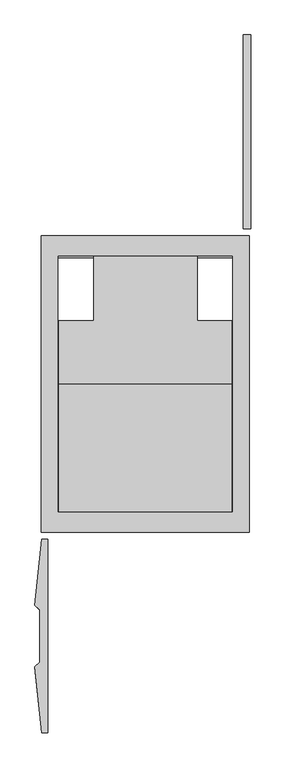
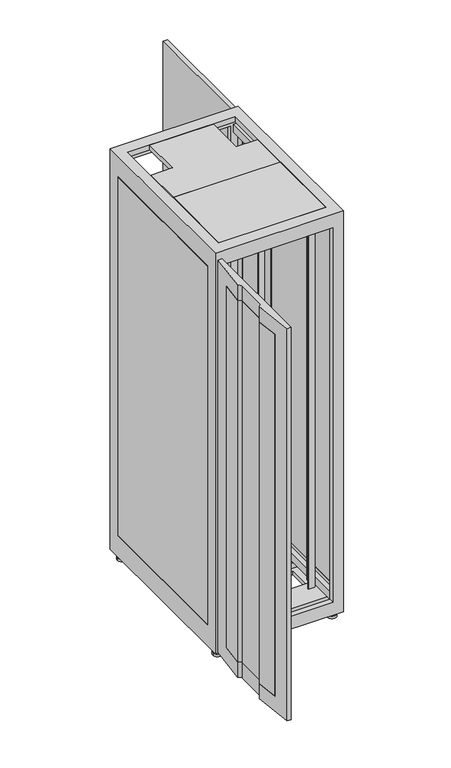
"""IFC4 building model written with IfcOpenShell, lengths in millimetres: electric appliance geometry."""

from ifc_helpers import new_model, si_unit, frame, origin, place, context, project, spatial, polyline, circle_curve, outline, extrude, faceted_brep, source, transform, mapped, element, save
from ifc_brep_helpers import plane_surface, cylinder_surface, advanced_brep


def electric_appliance_624bd925(model_context):
    return source(origin(), model_context, "Body", "SolidModel", [
        advanced_brep(
        [(-292.227, -391.795, 12.7), (-250.063, -391.795, 12.7), (-260.985, -391.795, 12.7), (-281.305, -391.795, 12.7), (-292.227, -391.795, 0.0), (-250.063, -391.795, 0.0), (-281.305, -391.795, 34.2138), (-260.985, -391.795, 34.2138)],
        [
            (0, 1, circle_curve(frame((-271.145, -391.795, 12.7), z_axis=(0.0, 0.0, 1.0), x_axis=(1.0, 0.0, 0.0)), 21.082)),
            (1, 0, circle_curve(frame((-271.145, -391.795, 12.7), z_axis=(0.0, 0.0, 1.0), x_axis=(1.0, 0.0, 0.0)), 21.082)),
            (2, 3, circle_curve(frame((-271.145, -391.795, 12.7), z_axis=(0.0, 0.0, -1.0), x_axis=(1.0, 0.0, 0.0)), 10.16)),
            (3, 2, circle_curve(frame((-271.145, -391.795, 12.7), z_axis=(0.0, 0.0, -1.0), x_axis=(1.0, 0.0, 0.0)), 10.16)),
            (4, 5, circle_curve(frame((-271.145, -391.795, 0.0), z_axis=(0.0, 0.0, -1.0), x_axis=(1.0, 0.0, 0.0)), 21.082)),
            (5, 4, circle_curve(frame((-271.145, -391.795, 0.0), z_axis=(0.0, 0.0, -1.0), x_axis=(1.0, 0.0, 0.0)), 21.082)),
            (0, 4),
            (5, 1),
            (6, 7, circle_curve(frame((-271.145, -391.795, 34.2138), z_axis=(0.0, 0.0, 1.0), x_axis=(1.0, 0.0, 0.0)), 10.16)),
            (7, 6, circle_curve(frame((-271.145, -391.795, 34.2138), z_axis=(0.0, 0.0, 1.0), x_axis=(1.0, 0.0, 0.0)), 10.16)),
            (6, 3),
            (2, 7),
        ],
        [
            plane_surface(frame((-250.063, -391.795, 12.7), z_axis=(0.0, 0.0, 1.0), x_axis=(0.0, 1.0, 0.0))),
            plane_surface(frame((-250.063, -391.795, 0.0), z_axis=(0.0, 0.0, -1.0), x_axis=(0.0, -1.0, 0.0))),
            cylinder_surface(frame((-271.145, -391.795, 0.0), z_axis=(0.0, 0.0, 1.0), x_axis=(1.0, 0.0, 0.0)), 21.082),
            plane_surface(frame((-260.985, -391.795, 34.2138), z_axis=(0.0, 0.0, 1.0), x_axis=(0.0, 1.0, 0.0))),
            cylinder_surface(frame((-271.145, -391.795, 12.7), z_axis=(0.0, 0.0, 1.0), x_axis=(1.0, 0.0, 0.0)), 10.16),
        ],
        [
            (0, [[1, 2], [3, 4]]),
            (1, [[5, 6]]),
            (2, [[-1, 7, -6, 8]]),
            (2, [[-2, -8, -5, -7]]),
            (3, [[9, 10]]),
            (4, [[-9, 11, -3, 12]]),
            (4, [[-10, -12, -4, -11]]),
        ],
    ),
        advanced_brep(
        [(250.063, -391.795, 12.7), (292.227, -391.795, 12.7), (281.305, -391.795, 12.7), (260.985, -391.795, 12.7), (250.063, -391.795, 0.0), (292.227, -391.795, 0.0), (260.985, -391.795, 34.2138), (281.305, -391.795, 34.2138)],
        [
            (0, 1, circle_curve(frame((271.145, -391.795, 12.7), z_axis=(0.0, 0.0, 1.0), x_axis=(1.0, 0.0, 0.0)), 21.082)),
            (1, 0, circle_curve(frame((271.145, -391.795, 12.7), z_axis=(0.0, 0.0, 1.0), x_axis=(1.0, 0.0, 0.0)), 21.082)),
            (2, 3, circle_curve(frame((271.145, -391.795, 12.7), z_axis=(0.0, 0.0, -1.0), x_axis=(1.0, 0.0, 0.0)), 10.16)),
            (3, 2, circle_curve(frame((271.145, -391.795, 12.7), z_axis=(0.0, 0.0, -1.0), x_axis=(1.0, 0.0, 0.0)), 10.16)),
            (4, 5, circle_curve(frame((271.145, -391.795, 0.0), z_axis=(0.0, 0.0, -1.0), x_axis=(1.0, 0.0, 0.0)), 21.082)),
            (5, 4, circle_curve(frame((271.145, -391.795, 0.0), z_axis=(0.0, 0.0, -1.0), x_axis=(1.0, 0.0, 0.0)), 21.082)),
            (6, 7, circle_curve(frame((271.145, -391.795, 34.2138), z_axis=(0.0, 0.0, 1.0), x_axis=(1.0, 0.0, 0.0)), 10.16)),
            (7, 6, circle_curve(frame((271.145, -391.795, 34.2138), z_axis=(0.0, 0.0, 1.0), x_axis=(1.0, 0.0, 0.0)), 10.16)),
            (0, 4),
            (5, 1),
            (6, 3),
            (2, 7),
        ],
        [
            plane_surface(frame((-250.063, -391.795, 12.7), z_axis=(0.0, 0.0, 1.0), x_axis=(0.0, 1.0, 0.0))),
            plane_surface(frame((-250.063, -391.795, 0.0), z_axis=(0.0, 0.0, -1.0), x_axis=(0.0, -1.0, 0.0))),
            plane_surface(frame((-260.985, -391.795, 34.2138), z_axis=(0.0, 0.0, 1.0), x_axis=(0.0, 1.0, 0.0))),
            cylinder_surface(frame((271.145, -391.795, 38.1), z_axis=(0.0, 0.0, 1.0), x_axis=(1.0, 0.0, 0.0)), 21.082),
            cylinder_surface(frame((271.145, -391.795, 38.1), z_axis=(0.0, 0.0, 1.0), x_axis=(1.0, 0.0, 0.0)), 10.16),
        ],
        [
            (0, [[1, 2], [3, 4]]),
            (1, [[5, 6]]),
            (2, [[7, 8]]),
            (3, [[-1, 9, -6, 10]]),
            (3, [[-2, -10, -5, -9]]),
            (4, [[-7, 11, -3, 12]]),
            (4, [[-8, -12, -4, -11]]),
        ],
    ),
        advanced_brep(
        [(-292.227, 391.795, 12.7), (-250.063, 391.795, 12.7), (-260.985, 391.795, 12.7), (-281.305, 391.795, 12.7), (-292.227, 391.795, 0.0), (-250.063, 391.795, 0.0), (-281.305, 391.795, 34.2138), (-260.985, 391.795, 34.2138)],
        [
            (0, 1, circle_curve(frame((-271.145, 391.795, 12.7), z_axis=(0.0, 0.0, 1.0), x_axis=(1.0, 0.0, 0.0)), 21.082)),
            (1, 0, circle_curve(frame((-271.145, 391.795, 12.7), z_axis=(0.0, 0.0, 1.0), x_axis=(1.0, 0.0, 0.0)), 21.082)),
            (2, 3, circle_curve(frame((-271.145, 391.795, 12.7), z_axis=(0.0, 0.0, -1.0), x_axis=(1.0, 0.0, 0.0)), 10.16)),
            (3, 2, circle_curve(frame((-271.145, 391.795, 12.7), z_axis=(0.0, 0.0, -1.0), x_axis=(1.0, 0.0, 0.0)), 10.16)),
            (4, 5, circle_curve(frame((-271.145, 391.795, 0.0), z_axis=(0.0, 0.0, -1.0), x_axis=(1.0, 0.0, 0.0)), 21.082)),
            (5, 4, circle_curve(frame((-271.145, 391.795, 0.0), z_axis=(0.0, 0.0, -1.0), x_axis=(1.0, 0.0, 0.0)), 21.082)),
            (6, 7, circle_curve(frame((-271.145, 391.795, 34.2138), z_axis=(0.0, 0.0, 1.0), x_axis=(1.0, 0.0, 0.0)), 10.16)),
            (7, 6, circle_curve(frame((-271.145, 391.795, 34.2138), z_axis=(0.0, 0.0, 1.0), x_axis=(1.0, 0.0, 0.0)), 10.16)),
            (0, 4),
            (5, 1),
            (6, 3),
            (2, 7),
        ],
        [
            plane_surface(frame((-250.063, -391.795, 12.7), z_axis=(0.0, 0.0, 1.0), x_axis=(0.0, 1.0, 0.0))),
            plane_surface(frame((-250.063, -391.795, 0.0), z_axis=(0.0, 0.0, -1.0), x_axis=(0.0, -1.0, 0.0))),
            plane_surface(frame((-260.985, -391.795, 34.2138), z_axis=(0.0, 0.0, 1.0), x_axis=(0.0, 1.0, 0.0))),
            cylinder_surface(frame((-271.145, 391.795, 38.1), z_axis=(0.0, 0.0, 1.0), x_axis=(1.0, 0.0, 0.0)), 21.082),
            cylinder_surface(frame((-271.145, 391.795, 38.1), z_axis=(0.0, 0.0, 1.0), x_axis=(1.0, 0.0, 0.0)), 10.16),
        ],
        [
            (0, [[1, 2], [3, 4]]),
            (1, [[5, 6]]),
            (2, [[7, 8]]),
            (3, [[-1, 9, -6, 10]]),
            (3, [[-2, -10, -5, -9]]),
            (4, [[-7, 11, -3, 12]]),
            (4, [[-8, -12, -4, -11]]),
        ],
    ),
        advanced_brep(
        [(250.063, 391.795, 12.7), (292.227, 391.795, 12.7), (281.305, 391.795, 12.7), (260.985, 391.795, 12.7), (250.063, 391.795, 0.0), (292.227, 391.795, 0.0), (260.985, 391.795, 34.2138), (281.305, 391.795, 34.2138)],
        [
            (0, 1, circle_curve(frame((271.145, 391.795, 12.7), z_axis=(0.0, 0.0, 1.0), x_axis=(1.0, 0.0, 0.0)), 21.082)),
            (1, 0, circle_curve(frame((271.145, 391.795, 12.7), z_axis=(0.0, 0.0, 1.0), x_axis=(1.0, 0.0, 0.0)), 21.082)),
            (2, 3, circle_curve(frame((271.145, 391.795, 12.7), z_axis=(0.0, 0.0, -1.0), x_axis=(1.0, 0.0, 0.0)), 10.16)),
            (3, 2, circle_curve(frame((271.145, 391.795, 12.7), z_axis=(0.0, 0.0, -1.0), x_axis=(1.0, 0.0, 0.0)), 10.16)),
            (4, 5, circle_curve(frame((271.145, 391.795, 0.0), z_axis=(0.0, 0.0, -1.0), x_axis=(1.0, 0.0, 0.0)), 21.082)),
            (5, 4, circle_curve(frame((271.145, 391.795, 0.0), z_axis=(0.0, 0.0, -1.0), x_axis=(1.0, 0.0, 0.0)), 21.082)),
            (6, 7, circle_curve(frame((271.145, 391.795, 34.2138), z_axis=(0.0, 0.0, 1.0), x_axis=(1.0, 0.0, 0.0)), 10.16)),
            (7, 6, circle_curve(frame((271.145, 391.795, 34.2138), z_axis=(0.0, 0.0, 1.0), x_axis=(1.0, 0.0, 0.0)), 10.16)),
            (0, 4),
            (5, 1),
            (6, 3),
            (2, 7),
        ],
        [
            plane_surface(frame((-250.063, -391.795, 12.7), z_axis=(0.0, 0.0, 1.0), x_axis=(0.0, 1.0, 0.0))),
            plane_surface(frame((-250.063, -391.795, 0.0), z_axis=(0.0, 0.0, -1.0), x_axis=(0.0, -1.0, 0.0))),
            plane_surface(frame((-260.985, -391.795, 34.2138), z_axis=(0.0, 0.0, 1.0), x_axis=(0.0, 1.0, 0.0))),
            cylinder_surface(frame((271.145, 391.795, 38.1), z_axis=(0.0, 0.0, 1.0), x_axis=(1.0, 0.0, 0.0)), 21.082),
            cylinder_surface(frame((271.145, 391.795, 38.1), z_axis=(0.0, 0.0, 1.0), x_axis=(1.0, 0.0, 0.0)), 10.16),
        ],
        [
            (0, [[1, 2], [3, 4]]),
            (1, [[5, 6]]),
            (2, [[7, 8]]),
            (3, [[-1, 9, -6, 10]]),
            (3, [[-2, -10, -5, -9]]),
            (4, [[-7, 11, -3, 12]]),
            (4, [[-8, -12, -4, -11]]),
        ],
    ),
        extrude(outline(polyline([(-321.6744623, -644.3751802), (-310.356235, -535.2643602), (-284.2031799, -535.2643602), (-284.2031799, -934.0443602), (-310.3319345, -934.0443602), (-321.6672137, -824.7294281), (-307.69818, -810.791939), (-307.69818, -658.3451802), (-321.6744623, -644.3751802)])), frame((0.0, 0.0, 130.71364), z_axis=(0.0, 0.0, 1.0), x_axis=(1.0, 0.0, 0.0)), (0.0, 0.0, 1.0), 1808.75352),
        faceted_brep([(-321.6744623, -644.3751802, 2016.1142), (-307.6981799, -658.3451802, 2016.1142), (-307.6981799, -810.791939, 2016.1142), (-321.6672137, -824.7294281, 2016.1142), (-301.7291799, -1017.0074281, 2016.1142), (-284.2031799, -1017.0074281, 2016.1142), (-284.2031799, -452.0971802, 2016.1142), (-301.7291799, -452.0971802, 2016.1142), (-321.6744623, -644.3751802, 54.0666), (-301.7291799, -452.0971802, 54.0666), (-284.2031799, -452.0971802, 54.0666), (-284.2031799, -1017.0074281, 54.0666), (-301.7291799, -1017.0074281, 54.0666), (-321.6672137, -824.7294281, 54.0666), (-307.6981799, -810.791939, 54.0666), (-307.6981799, -658.3451802, 54.0666), (-321.6744623, -644.3751802, 1939.46716), (-307.6981799, -658.3451802, 1939.46716), (-307.6981799, -658.3451802, 130.71364), (-321.6744623, -644.3751802, 130.71364), (-307.6981799, -810.791939, 1939.46716), (-307.6981799, -810.791939, 130.71364), (-321.6672137, -824.7294281, 1939.46716), (-321.6672137, -824.7294281, 130.71364), (-310.3319345, -934.0443602, 1939.46716), (-310.3319345, -934.0443602, 130.71364), (-284.2031799, -535.2643602, 130.71364), (-284.2031799, -934.0443602, 130.71364), (-284.2031799, -934.0443602, 1939.46716), (-284.2031799, -535.2643602, 1939.46716), (-310.356235, -535.2643602, 130.71364), (-310.356235, -535.2643602, 1939.46716)], [[[0, 1, 2, 3, 4, 5, 6, 7]], [[8, 9, 10, 11, 12, 13, 14, 15]], [[1, 0, 16, 17]], [[8, 15, 18, 19]], [[2, 1, 17, 20]], [[15, 14, 21, 18]], [[3, 2, 20, 22]], [[14, 13, 23, 21]], [[4, 3, 22, 24, 25, 23, 13, 12]], [[5, 4, 12, 11]], [[6, 5, 11, 10], [26, 27, 28, 29]], [[7, 6, 10, 9]], [[0, 7, 9, 8, 19, 30, 31, 16]], [[26, 30, 19, 18, 21, 23, 25, 27]], [[28, 24, 22, 20, 17, 16, 31, 29]], [[30, 26, 29, 31]], [[27, 25, 24, 28]]]),
        extrude(outline(polyline([(-256.31775, 133.35), (-225.3615, 133.35), (-225.3615, 130.7084), (-253.67615, 130.7084), (-253.67615, 76.2), (-256.31775, 76.2), (-256.31775, 133.35)])), frame((0.0, 0.0, 80.772), z_axis=(0.0, 0.0, 1.0), x_axis=(1.0, 0.0, 0.0)), (0.0, 0.0, 1.0), 1901.0884),
        extrude(outline(polyline([(256.31775, 133.35), (256.31775, 76.2), (253.67615, 76.2), (253.67615, 130.7084), (225.3615, 130.7084), (225.3615, 133.35), (256.31775, 133.35)])), frame((0.0, 0.0, 80.772), z_axis=(0.0, 0.0, 1.0), x_axis=(1.0, 0.0, 0.0)), (0.0, 0.0, 1.0), 1901.0884),
        extrude(outline(polyline([(-256.31775, -279.4), (-256.31775, -215.9), (-253.67615, -215.9), (-253.67615, -276.7584), (-225.3615, -276.7584), (-225.3615, -279.4), (-256.31775, -279.4)])), frame((0.0, 0.0, 80.772), z_axis=(0.0, 0.0, 1.0), x_axis=(1.0, 0.0, 0.0)), (0.0, 0.0, 1.0), 1901.0884),
        extrude(outline(polyline([(256.31775, -279.4), (225.3615, -279.4), (225.3615, -276.7584), (253.67615, -276.7584), (253.67615, -215.9), (256.31775, -215.9), (256.31775, -279.4)])), frame((0.0, 0.0, 80.772), z_axis=(0.0, 0.0, 1.0), x_axis=(1.0, 0.0, 0.0)), (0.0, 0.0, 1.0), 1901.0884),
        extrude(outline(polyline([(-262.66775, -400.05), (-283.31795, -400.05), (-283.31795, 400.05), (-262.66775, 400.05), (-262.66775, -400.05)])), frame((0.0, 0.0, 1940.5854), z_axis=(0.0, 0.0, 1.0), x_axis=(1.0, 0.0, 0.0)), (0.0, 0.0, 1.0), 41.275),
        extrude(outline(polyline([(283.31795, -400.05), (262.66775, -400.05), (262.66775, 400.05), (283.31795, 400.05), (283.31795, -400.05)])), frame((0.0, 0.0, 1940.5854), z_axis=(0.0, 0.0, 1.0), x_axis=(1.0, 0.0, 0.0)), (0.0, 0.0, 1.0), 41.275),
        extrude(outline(polyline([(-262.66775, -400.05), (-283.31795, -400.05), (-283.31795, 400.05), (-262.66775, 400.05), (-262.66775, -400.05)])), frame((0.0, 0.0, 85.0138), z_axis=(0.0, 0.0, 1.0), x_axis=(1.0, 0.0, 0.0)), (0.0, 0.0, 1.0), 41.275),
        extrude(outline(polyline([(283.31795, -400.05), (262.66775, -400.05), (262.66775, 400.05), (283.31795, 400.05), (283.31795, -400.05)])), frame((0.0, 0.0, 85.0138), z_axis=(0.0, 0.0, 1.0), x_axis=(1.0, 0.0, 0.0)), (0.0, 0.0, 1.0), 41.275),
        faceted_brep([(-287.02, 407.67, 2014.093), (287.02, 407.67, 2014.093), (287.02, -407.67, 2014.093), (-287.02, -407.67, 2014.093), (254.0, -372.745, 2014.093), (254.0, 372.745, 2014.093), (-253.9746, 372.745, 2014.093), (-253.9746, -372.745, 2014.093), (302.895, 431.8, 2038.35), (-302.895, 431.8, 2038.35), (-302.895, 407.67, 2038.35), (-302.895, -407.67, 2038.35), (-302.895, -431.8, 2038.35), (302.895, -431.8, 2038.35), (302.895, -407.67, 2038.35), (302.895, 407.67, 2038.35), (254.0, -372.745, 2038.35), (-253.9746, -372.745, 2038.35), (-253.9746, 372.745, 2038.35), (254.0, 372.745, 2038.35), (302.895, -431.8, 51.9684), (302.895, -431.8, 34.2138), (302.895, 431.8, 34.2138), (302.895, 431.8, 51.9684), (302.895, 368.3, 1936.8643), (302.895, 368.3, 141.5034), (302.895, -368.3, 141.5034), (302.895, -368.3, 1936.8643), (-302.895, 431.8, 34.2138), (-302.895, 431.8, 51.9684), (254.0, 431.8, 1970.0367), (-253.9746, 431.8, 1970.0367), (-253.9746, 431.8, 98.1583), (254.0, 431.8, 98.1583), (-302.895, -431.8, 34.2138), (-302.895, -431.8, 51.9684), (-302.895, 368.3, 1936.8643), (-302.895, -368.3, 1936.8643), (-302.895, -368.3, 141.5034), (-302.895, 368.3, 141.5034), (254.0, -431.8, 1970.0367), (254.0, -431.8, 98.1583), (-253.9746, -431.8, 98.1583), (-253.9746, -431.8, 1970.0367), (287.02, 407.67, 51.9684), (287.02, 44.7802, 51.9684), (287.02, 44.7802, 80.772), (287.02, -82.2198, 80.772), (287.02, -82.2198, 51.9684), (287.02, -239.395, 51.9684), (287.02, -239.395, 80.772), (287.02, -366.7125, 80.772), (287.02, -366.7125, 51.9684), (287.02, -407.67, 51.9684), (287.02, 368.3, 1936.8643), (287.02, -368.3, 1936.8643), (287.02, -368.3, 141.5034), (287.02, 368.3, 141.5034), (254.0, 366.7125, 34.2138), (-253.9746, 366.7125, 34.2138), (-253.9746, 63.8302, 34.2138), (254.0, 63.8302, 34.2138), (254.0, -101.2698, 34.2138), (-253.9746, -101.2698, 34.2138), (-253.9746, -220.345, 34.2138), (254.0, -220.345, 34.2138), (-287.02, -407.67, 51.9684), (-287.02, -366.7125, 51.9684), (-287.02, -366.7125, 80.772), (-287.02, -239.395, 80.772), (-287.02, -239.395, 51.9684), (-287.02, -82.2198, 51.9684), (-287.02, -82.2198, 80.772), (-287.02, 44.7802, 80.772), (-287.02, 44.7802, 51.9684), (-287.02, 407.67, 51.9684), (-287.02, 368.3, 1936.8643), (-287.02, 368.3, 141.5034), (-287.02, -368.3, 141.5034), (-287.02, -368.3, 1936.8643), (254.0, 407.67, 1970.0367), (254.0, 407.67, 98.1583), (-253.9746, 407.67, 98.1583), (-253.9746, 407.67, 1970.0367), (254.0, -407.67, 1970.0367), (-253.9746, -407.67, 1970.0367), (-253.9746, -407.67, 98.1583), (254.0, -407.67, 98.1583), (-253.9746, 366.7125, 51.9684), (254.0, 366.7125, 51.9684), (254.0, 63.8302, 51.9684), (-253.9746, 63.8302, 51.9684), (-253.9746, -101.2698, 51.9684), (254.0, -101.2698, 51.9684), (254.0, -220.345, 51.9684), (-253.9746, -220.345, 51.9684)], [[[0, 1, 2, 3], [4, 5, 6, 7]], [[8, 9, 10, 11, 12, 13, 14, 15], [16, 17, 18, 19]], [[8, 15, 14, 13, 20, 21, 22, 23], [24, 25, 26, 27]], [[9, 8, 23, 22, 28, 29], [30, 31, 32, 33]], [[10, 9, 29, 28, 34, 35, 12, 11], [36, 37, 38, 39]], [[13, 12, 35, 34, 21, 20], [40, 41, 42, 43]], [[4, 7, 17, 16]], [[7, 6, 18, 17]], [[6, 5, 19, 18]], [[5, 4, 16, 19]], [[2, 1, 44, 45, 46, 47, 48, 49, 50, 51, 52, 53], [54, 55, 56, 57]], [[28, 22, 21, 34], [58, 59, 60, 61], [62, 63, 64, 65]], [[54, 57, 25, 24]], [[57, 56, 26, 25]], [[56, 55, 27, 26]], [[55, 54, 24, 27]], [[0, 3, 66, 67, 68, 69, 70, 71, 72, 73, 74, 75], [76, 77, 78, 79]], [[77, 76, 36, 39]], [[78, 77, 39, 38]], [[79, 78, 38, 37]], [[76, 79, 37, 36]], [[1, 0, 75, 44], [80, 81, 82, 83]], [[81, 80, 30, 33]], [[82, 81, 33, 32]], [[83, 82, 32, 31]], [[80, 83, 31, 30]], [[3, 2, 53, 66], [84, 85, 86, 87]], [[84, 87, 41, 40]], [[87, 86, 42, 41]], [[86, 85, 43, 42]], [[85, 84, 40, 43]], [[44, 75, 74, 45], [88, 89, 90, 91]], [[66, 53, 52, 67]], [[48, 71, 70, 49], [92, 93, 94, 95]], [[89, 58, 61, 90]], [[93, 62, 65, 94]], [[59, 88, 91, 60]], [[63, 92, 95, 64]], [[89, 88, 59, 58]], [[51, 68, 67, 52]], [[68, 51, 50, 69]], [[49, 70, 69, 50]], [[65, 64, 95, 94]], [[63, 62, 93, 92]], [[47, 72, 71, 48]], [[72, 47, 46, 73]], [[73, 46, 45, 74]], [[61, 60, 91, 90]]]),
        extrude(outline(polyline([(307.34258, 1017.24718), (307.34258, 452.09718), (285.11758, 452.09718), (285.11758, 1017.24718), (307.34258, 1017.24718)])), frame((0.0, 0.0, 54.0658), z_axis=(0.0, 0.0, 1.0), x_axis=(1.0, 0.0, 0.0)), (0.0, 0.0, 1.0), 1960.0272),
        extrude(outline(polyline([(252.4125, -0.5207), (252.4125, -371.9957), (-252.4125, -371.9957), (-252.4125, -0.5207), (252.4125, -0.5207)])), frame((0.0, 0.0, 2016.1142), z_axis=(0.0, 0.0, 1.0), x_axis=(1.0, 0.0, 0.0)), (0.0, 0.0, 1.0), 22.2358),
        extrude(outline(polyline([(252.4125, 0.4826), (-252.4125, 0.4826), (-252.4125, 184.6326), (-150.8125, 184.6326), (-150.8125, 371.9576), (150.8125, 371.9576), (150.8125, 184.6326), (252.4125, 184.6326), (252.4125, 0.4826)])), frame((0.0, 0.0, 2016.1142), z_axis=(0.0, 0.0, 1.0), x_axis=(1.0, 0.0, 0.0)), (0.0, 0.0, 1.0), 22.2358),
        extrude(outline(polyline([(-302.895, -366.7125), (-302.895, 366.7125), (-287.02, 366.7125), (-287.02, -366.7125), (-302.895, -366.7125)])), frame((0.0, 0.0, 143.0909), z_axis=(0.0, 0.0, 1.0), x_axis=(1.0, 0.0, 0.0)), (0.0, 0.0, 1.0), 1792.1859),
        extrude(outline(polyline([(302.895, 366.7125), (302.895, -366.7125), (287.02, -366.7125), (287.02, 366.7125), (302.895, 366.7125)])), frame((0.0, 0.0, 143.0909), z_axis=(0.0, 0.0, 1.0), x_axis=(1.0, 0.0, 0.0)), (0.0, 0.0, 1.0), 1792.1859),
    ])


if __name__ == "__main__":
    model = new_model("IFC4")
    model_context = context("Model", 3, world=origin())
    ifc_project = project(units=[si_unit("LENGTHUNIT", "METRE", prefix="MILLI")], contexts=[model_context])
    site = spatial("IfcSite", under=ifc_project)
    building = spatial("IfcBuilding", under=site)
    placement = place(None, origin())
    electric_appliance_shape = electric_appliance_624bd925(model_context)
    element("IfcElectricAppliance", 1, ObjectType="Cabinet-Network-Ortronics-Preconfigured-Mighty_Mo : 42 RU x 24\" W x 36\" D", at=placement, inside=building, context=model_context, shape_type="MappedRepresentation", body=[
        mapped(electric_appliance_shape, transform((0.0, 0.0, 0.0), x_axis=(1.0, 0.0, 0.0), y_axis=(0.0, 1.0, 0.0), z_axis=(0.0, 0.0, 1.0))),
    ])
    save(model, "model.ifc")
